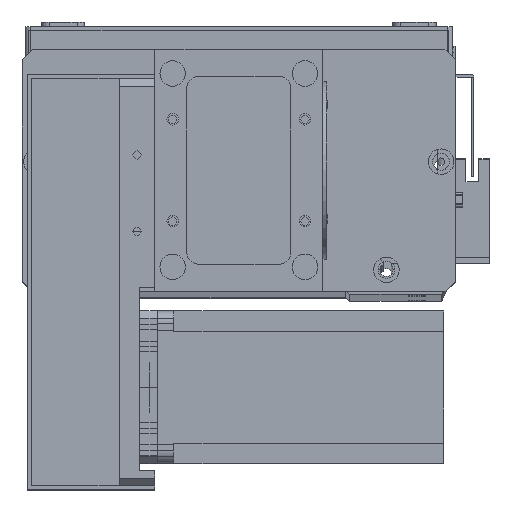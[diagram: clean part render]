
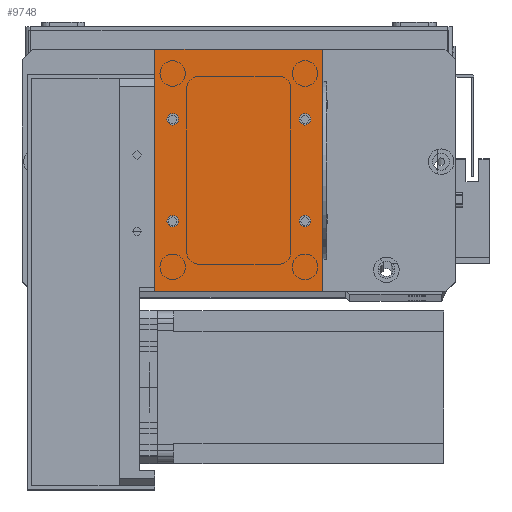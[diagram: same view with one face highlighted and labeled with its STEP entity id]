
A CAD part, top view. The second image highlights one B-rep face of the part: STEP entity #9748.
In plain terms, the highlighted planar face has unit normal (0, 0, 1).
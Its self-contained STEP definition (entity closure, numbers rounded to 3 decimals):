
#293 = EDGE_CURVE ( 'NONE', #12112, #2551, #9069, .T. ) ;
#642 = CIRCLE ( 'NONE', #11931, 2.25 ) ;
#1224 = ORIENTED_EDGE ( 'NONE', *, *, #26350, .F. ) ;
#1633 = DIRECTION ( 'NONE',  ( 1., 0., 0. ) ) ;
#1695 = PLANE ( 'NONE',  #23275 ) ;
#1814 = CARTESIAN_POINT ( 'NONE',  ( 0., 0., 2. ) ) ;
#2002 = CIRCLE ( 'NONE', #25088, 2.25 ) ;
#2551 = VERTEX_POINT ( 'NONE', #30681 ) ;
#2604 = CARTESIAN_POINT ( 'NONE',  ( 7., 67.5, 2. ) ) ;
#2847 = CARTESIAN_POINT ( 'NONE',  ( 4.75, 27.5, 2. ) ) ;
#2941 = FACE_BOUND ( 'NONE', #26746, .T. ) ;
#3074 = DIRECTION ( 'NONE',  ( 0., 0., 1. ) ) ;
#3657 = ORIENTED_EDGE ( 'NONE', *, *, #293, .T. ) ;
#3728 = FACE_BOUND ( 'NONE', #7989, .T. ) ;
#3892 = CIRCLE ( 'NONE', #23466, 2.25 ) ;
#3929 = ORIENTED_EDGE ( 'NONE', *, *, #31606, .F. ) ;
#4355 = EDGE_CURVE ( 'NONE', #10678, #12626, #16311, .T. ) ;
#4622 = AXIS2_PLACEMENT_3D ( 'NONE', #31868, #16799, #1633 ) ;
#5136 = DIRECTION ( 'NONE',  ( 1., 0., 0. ) ) ;
#5785 = EDGE_CURVE ( 'NONE', #13261, #16435, #32407, .T. ) ;
#6173 = CARTESIAN_POINT ( 'NONE',  ( 59., 27.5, 2. ) ) ;
#6207 = CARTESIAN_POINT ( 'NONE',  ( 0., 0., 2. ) ) ;
#6723 = VECTOR ( 'NONE', #24427, 1000. ) ;
#6782 = CARTESIAN_POINT ( 'NONE',  ( 0., 0., 2. ) ) ;
#6889 = DIRECTION ( 'NONE',  ( -1., 0., 0. ) ) ;
#7481 = DIRECTION ( 'NONE',  ( 0., 1., 0. ) ) ;
#7989 = EDGE_LOOP ( 'NONE', ( #18843, #3929 ) ) ;
#8039 = DIRECTION ( 'NONE',  ( 0., 0., 1. ) ) ;
#8159 = DIRECTION ( 'NONE',  ( 0., 0., 1. ) ) ;
#8322 = CARTESIAN_POINT ( 'NONE',  ( 66., 95., 2. ) ) ;
#8703 = DIRECTION ( 'NONE',  ( 1., 0., 0. ) ) ;
#8727 = VERTEX_POINT ( 'NONE', #23795 ) ;
#9069 = LINE ( 'NONE', #28186, #15806 ) ;
#9391 = ORIENTED_EDGE ( 'NONE', *, *, #27234, .T. ) ;
#9593 = CARTESIAN_POINT ( 'NONE',  ( 59., 27.5, 2. ) ) ;
#9670 = FACE_BOUND ( 'NONE', #11900, .T. ) ;
#9748 = ADVANCED_FACE ( 'NONE', ( #2941, #3728, #17201, #9670, #28968 ), #1695, .F. ) ;
#9798 = CARTESIAN_POINT ( 'NONE',  ( 0., 0., 2. ) ) ;
#10167 = CARTESIAN_POINT ( 'NONE',  ( 56.75, 67.5, 2. ) ) ;
#10324 = CIRCLE ( 'NONE', #26159, 2.25 ) ;
#10678 = VERTEX_POINT ( 'NONE', #20736 ) ;
#11393 = CARTESIAN_POINT ( 'NONE',  ( 66., 0., 2. ) ) ;
#11900 = EDGE_LOOP ( 'NONE', ( #15954, #23421 ) ) ;
#11931 = AXIS2_PLACEMENT_3D ( 'NONE', #23153, #8039, #25642 ) ;
#12111 = DIRECTION ( 'NONE',  ( 1., 0., 0. ) ) ;
#12112 = VERTEX_POINT ( 'NONE', #8322 ) ;
#12407 = DIRECTION ( 'NONE',  ( 0., -1., 0. ) ) ;
#12626 = VERTEX_POINT ( 'NONE', #10167 ) ;
#12737 = ORIENTED_EDGE ( 'NONE', *, *, #14737, .F. ) ;
#12785 = VERTEX_POINT ( 'NONE', #18464 ) ;
#13157 = VERTEX_POINT ( 'NONE', #2847 ) ;
#13261 = VERTEX_POINT ( 'NONE', #18432 ) ;
#13441 = LINE ( 'NONE', #6782, #6723 ) ;
#13478 = AXIS2_PLACEMENT_3D ( 'NONE', #9593, #27188, #12111 ) ;
#14696 = CARTESIAN_POINT ( 'NONE',  ( 7., 67.5, 2. ) ) ;
#14737 = EDGE_CURVE ( 'NONE', #12785, #16312, #2002, .T. ) ;
#15364 = AXIS2_PLACEMENT_3D ( 'NONE', #23254, #8159, #25747 ) ;
#15806 = VECTOR ( 'NONE', #30600, 1000. ) ;
#15850 = EDGE_LOOP ( 'NONE', ( #30596, #9391, #28606, #3657 ) ) ;
#15954 = ORIENTED_EDGE ( 'NONE', *, *, #16705, .F. ) ;
#16309 = VERTEX_POINT ( 'NONE', #11393 ) ;
#16311 = CIRCLE ( 'NONE', #4622, 2.25 ) ;
#16312 = VERTEX_POINT ( 'NONE', #16495 ) ;
#16435 = VERTEX_POINT ( 'NONE', #19555 ) ;
#16495 = CARTESIAN_POINT ( 'NONE',  ( 4.75, 67.5, 2. ) ) ;
#16705 = EDGE_CURVE ( 'NONE', #8727, #13157, #3892, .T. ) ;
#16799 = DIRECTION ( 'NONE',  ( 0., 0., 1. ) ) ;
#17127 = EDGE_CURVE ( 'NONE', #2551, #23200, #19768, .T. ) ;
#17201 = FACE_BOUND ( 'NONE', #19132, .T. ) ;
#17248 = DIRECTION ( 'NONE',  ( 1., 0., 0. ) ) ;
#18214 = CARTESIAN_POINT ( 'NONE',  ( 7., 27.5, 2. ) ) ;
#18432 = CARTESIAN_POINT ( 'NONE',  ( 56.75, 27.5, 2. ) ) ;
#18464 = CARTESIAN_POINT ( 'NONE',  ( 9.25, 67.5, 2. ) ) ;
#18843 = ORIENTED_EDGE ( 'NONE', *, *, #4355, .F. ) ;
#19132 = EDGE_LOOP ( 'NONE', ( #1224, #20985 ) ) ;
#19555 = CARTESIAN_POINT ( 'NONE',  ( 61.25, 27.5, 2. ) ) ;
#19768 = LINE ( 'NONE', #9798, #24851 ) ;
#20075 = CARTESIAN_POINT ( 'NONE',  ( 66., 0., 2. ) ) ;
#20247 = DIRECTION ( 'NONE',  ( 0., 0., 1. ) ) ;
#20734 = DIRECTION ( 'NONE',  ( 1., 0., 0. ) ) ;
#20736 = CARTESIAN_POINT ( 'NONE',  ( 61.25, 67.5, 2. ) ) ;
#20985 = ORIENTED_EDGE ( 'NONE', *, *, #5785, .F. ) ;
#21620 = AXIS2_PLACEMENT_3D ( 'NONE', #2604, #20247, #5136 ) ;
#22010 = DIRECTION ( 'NONE',  ( 0., 0., -1. ) ) ;
#23153 = CARTESIAN_POINT ( 'NONE',  ( 59., 67.5, 2. ) ) ;
#23200 = VERTEX_POINT ( 'NONE', #6207 ) ;
#23254 = CARTESIAN_POINT ( 'NONE',  ( 7., 27.5, 2. ) ) ;
#23275 = AXIS2_PLACEMENT_3D ( 'NONE', #1814, #22010, #6889 ) ;
#23421 = ORIENTED_EDGE ( 'NONE', *, *, #31615, .F. ) ;
#23466 = AXIS2_PLACEMENT_3D ( 'NONE', #18214, #3074, #20734 ) ;
#23795 = CARTESIAN_POINT ( 'NONE',  ( 9.25, 27.5, 2. ) ) ;
#23796 = DIRECTION ( 'NONE',  ( 0., 0., 1. ) ) ;
#23918 = VECTOR ( 'NONE', #7481, 1000. ) ;
#24427 = DIRECTION ( 'NONE',  ( 1., 0., 0. ) ) ;
#24687 = LINE ( 'NONE', #20075, #23918 ) ;
#24750 = CIRCLE ( 'NONE', #21620, 2.25 ) ;
#24851 = VECTOR ( 'NONE', #12407, 1000. ) ;
#25088 = AXIS2_PLACEMENT_3D ( 'NONE', #14696, #32315, #17248 ) ;
#25642 = DIRECTION ( 'NONE',  ( 1., 0., 0. ) ) ;
#25747 = DIRECTION ( 'NONE',  ( 1., 0., 0. ) ) ;
#26159 = AXIS2_PLACEMENT_3D ( 'NONE', #6173, #23796, #8703 ) ;
#26350 = EDGE_CURVE ( 'NONE', #16435, #13261, #10324, .T. ) ;
#26592 = ORIENTED_EDGE ( 'NONE', *, *, #29031, .F. ) ;
#26746 = EDGE_LOOP ( 'NONE', ( #12737, #26592 ) ) ;
#27188 = DIRECTION ( 'NONE',  ( 0., 0., 1. ) ) ;
#27234 = EDGE_CURVE ( 'NONE', #23200, #16309, #13441, .T. ) ;
#28186 = CARTESIAN_POINT ( 'NONE',  ( 0., 95., 2. ) ) ;
#28606 = ORIENTED_EDGE ( 'NONE', *, *, #30011, .T. ) ;
#28968 = FACE_OUTER_BOUND ( 'NONE', #15850, .T. ) ;
#29031 = EDGE_CURVE ( 'NONE', #16312, #12785, #24750, .T. ) ;
#30011 = EDGE_CURVE ( 'NONE', #16309, #12112, #24687, .T. ) ;
#30596 = ORIENTED_EDGE ( 'NONE', *, *, #17127, .T. ) ;
#30600 = DIRECTION ( 'NONE',  ( -1., 0., 0. ) ) ;
#30681 = CARTESIAN_POINT ( 'NONE',  ( 0., 95., 2. ) ) ;
#31606 = EDGE_CURVE ( 'NONE', #12626, #10678, #642, .T. ) ;
#31615 = EDGE_CURVE ( 'NONE', #13157, #8727, #32607, .T. ) ;
#31868 = CARTESIAN_POINT ( 'NONE',  ( 59., 67.5, 2. ) ) ;
#32315 = DIRECTION ( 'NONE',  ( 0., 0., 1. ) ) ;
#32407 = CIRCLE ( 'NONE', #13478, 2.25 ) ;
#32607 = CIRCLE ( 'NONE', #15364, 2.25 ) ;
